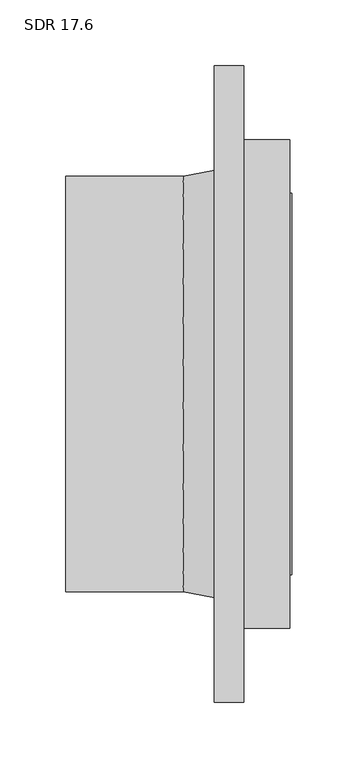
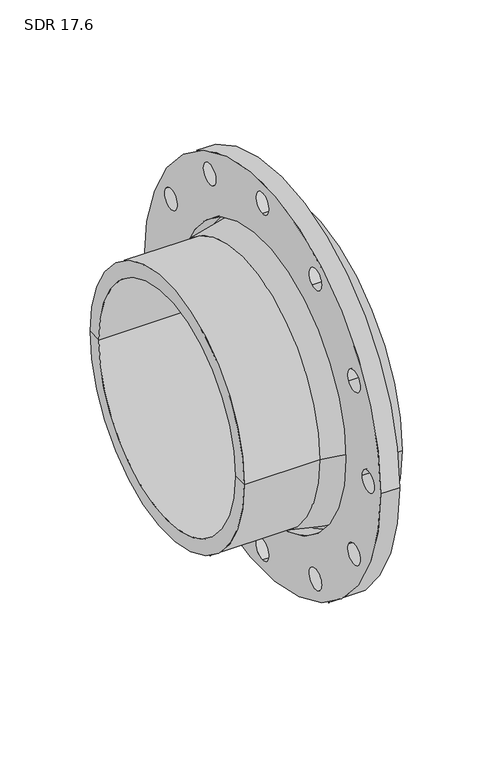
"""IFC4 building model written with IfcOpenShell, lengths in millimetres: valve geometry, Aquatherm - Flange Adapter Butt-Weld : SDR 17.6."""

from ifc_helpers import new_model, si_unit, point, frame, frame_2d, origin, origin_2d, place, context, project, spatial, polyline, circle_curve, trimmed, segment, composite_curve, outline, extrude, source, transform, mapped, element, save
from ifc_brep_helpers import plane_surface, cylinder_surface, revolved_surface, advanced_brep


def sdr_17_6_c7095c72(model_context):
    return source(origin(), model_context, "Body", "SolidModel", [
        extrude(outline(composite_curve([segment(trimmed(circle_curve(origin_2d(), 241.3), [point((-241.3, 0.0))], [point((241.3, 0.0))], False, "CARTESIAN"), True, "CONTINUOUS"), segment(trimmed(circle_curve(origin_2d(), 241.3), [point((241.3, 0.0))], [point((-241.3, 0.0))], False, "CARTESIAN"), True, "CONTINUOUS")], self_intersect=False), holes=[composite_curve([segment(trimmed(circle_curve(origin_2d(), 170.18), [point((-170.18, 0.0))], [point((170.18, 0.0))], True, "CARTESIAN"), True, "CONTINUOUS"), segment(trimmed(circle_curve(origin_2d(), 170.18), [point((170.18, 0.0))], [point((-170.18, 0.0))], True, "CARTESIAN"), True, "CONTINUOUS")], self_intersect=False), composite_curve([segment(trimmed(circle_curve(frame_2d((215.9, 0.0)), 12.7), [point((203.2, 0.0))], [point((228.6, 0.0))], True, "CARTESIAN"), True, "CONTINUOUS"), segment(trimmed(circle_curve(frame_2d((215.9, 0.0)), 12.7), [point((228.6, 0.0))], [point((203.2, 0.0))], True, "CARTESIAN"), True, "CONTINUOUS")], self_intersect=False), composite_curve([segment(trimmed(circle_curve(frame_2d((186.9748847, -107.95)), 12.7), [point((175.976362, -101.6))], [point((197.9734073, -114.3))], True, "CARTESIAN"), True, "CONTINUOUS"), segment(trimmed(circle_curve(frame_2d((186.9748847, -107.95)), 12.7), [point((197.9734073, -114.3))], [point((175.976362, -101.6))], True, "CARTESIAN"), True, "CONTINUOUS")], self_intersect=False), composite_curve([segment(trimmed(circle_curve(frame_2d((186.9748847, 107.95)), 12.7), [point((175.976362, 101.6))], [point((197.9734073, 114.3))], True, "CARTESIAN"), True, "CONTINUOUS"), segment(trimmed(circle_curve(frame_2d((186.9748847, 107.95)), 12.7), [point((197.9734073, 114.3))], [point((175.976362, 101.6))], True, "CARTESIAN"), True, "CONTINUOUS")], self_intersect=False), composite_curve([segment(trimmed(circle_curve(frame_2d((107.95, 186.9748847)), 12.7), [point((101.6, 175.976362))], [point((114.3, 197.9734073))], True, "CARTESIAN"), True, "CONTINUOUS"), segment(trimmed(circle_curve(frame_2d((107.95, 186.9748847)), 12.7), [point((114.3, 197.9734073))], [point((101.6, 175.976362))], True, "CARTESIAN"), True, "CONTINUOUS")], self_intersect=False), composite_curve([segment(trimmed(circle_curve(frame_2d((0.0, 215.9)), 12.7), [point((0.0, 203.2))], [point((0.0, 228.6))], True, "CARTESIAN"), True, "CONTINUOUS"), segment(trimmed(circle_curve(frame_2d((0.0, 215.9)), 12.7), [point((0.0, 228.6))], [point((0.0, 203.2))], True, "CARTESIAN"), True, "CONTINUOUS")], self_intersect=False), composite_curve([segment(trimmed(circle_curve(frame_2d((-107.95, 186.9748847)), 12.7), [point((-101.6, 175.976362))], [point((-114.3, 197.9734073))], True, "CARTESIAN"), True, "CONTINUOUS"), segment(trimmed(circle_curve(frame_2d((-107.95, 186.9748847)), 12.7), [point((-114.3, 197.9734073))], [point((-101.6, 175.976362))], True, "CARTESIAN"), True, "CONTINUOUS")], self_intersect=False), composite_curve([segment(trimmed(circle_curve(frame_2d((-186.9748847, 107.95)), 12.7), [point((-175.976362, 101.6))], [point((-197.9734073, 114.3))], True, "CARTESIAN"), True, "CONTINUOUS"), segment(trimmed(circle_curve(frame_2d((-186.9748847, 107.95)), 12.7), [point((-197.9734073, 114.3))], [point((-175.976362, 101.6))], True, "CARTESIAN"), True, "CONTINUOUS")], self_intersect=False), composite_curve([segment(trimmed(circle_curve(frame_2d((-215.9, 0.0)), 12.7), [point((-203.2, 0.0))], [point((-228.6, 0.0))], True, "CARTESIAN"), True, "CONTINUOUS"), segment(trimmed(circle_curve(frame_2d((-215.9, 0.0)), 12.7), [point((-228.6, 0.0))], [point((-203.2, 0.0))], True, "CARTESIAN"), True, "CONTINUOUS")], self_intersect=False), composite_curve([segment(trimmed(circle_curve(frame_2d((-186.9748847, -107.95)), 12.7), [point((-175.976362, -101.6))], [point((-197.9734073, -114.3))], True, "CARTESIAN"), True, "CONTINUOUS"), segment(trimmed(circle_curve(frame_2d((-186.9748847, -107.95)), 12.7), [point((-197.9734073, -114.3))], [point((-175.976362, -101.6))], True, "CARTESIAN"), True, "CONTINUOUS")], self_intersect=False), composite_curve([segment(trimmed(circle_curve(frame_2d((-107.95, -186.9748847)), 12.7), [point((-101.6, -175.976362))], [point((-114.3, -197.9734073))], True, "CARTESIAN"), True, "CONTINUOUS"), segment(trimmed(circle_curve(frame_2d((-107.95, -186.9748847)), 12.7), [point((-114.3, -197.9734073))], [point((-101.6, -175.976362))], True, "CARTESIAN"), True, "CONTINUOUS")], self_intersect=False), composite_curve([segment(trimmed(circle_curve(frame_2d((0.0, -215.9)), 12.7), [point((0.0, -203.2))], [point((0.0, -228.6))], True, "CARTESIAN"), True, "CONTINUOUS"), segment(trimmed(circle_curve(frame_2d((0.0, -215.9)), 12.7), [point((0.0, -228.6))], [point((0.0, -203.2))], True, "CARTESIAN"), True, "CONTINUOUS")], self_intersect=False), composite_curve([segment(trimmed(circle_curve(frame_2d((107.95, -186.9748847)), 12.7), [point((101.6, -175.976362))], [point((114.3, -197.9734073))], True, "CARTESIAN"), True, "CONTINUOUS"), segment(trimmed(circle_curve(frame_2d((107.95, -186.9748847)), 12.7), [point((114.3, -197.9734073))], [point((101.6, -175.976362))], True, "CARTESIAN"), True, "CONTINUOUS")], self_intersect=False)]), frame((-22.352, 0.0, 0.0), z_axis=(1.0, 0.0, 0.0), x_axis=(0.0, 1.0, 0.0)), (0.0, 0.0, 1.0), 22.352),
        advanced_brep(
        [(35.052, 185.42, 0.0), (35.052, -185.42, 0.0), (0.0, -185.42, 0.0), (0.0, 185.42, 0.0), (36.6395, 139.7, 0.0), (36.6395, -139.7, 0.0), (36.6395, -144.78, 0.0), (36.6395, 144.78, 0.0), (-134.874, 139.7, 0.0), (-134.874, -139.7, 0.0), (-134.874, 157.48, 0.0), (-134.874, -157.48, 0.0), (-45.974, 157.48, 0.0), (-45.974, -157.48, 0.0), (0.0, -166.37, 0.0), (0.0, 166.37, 0.0), (35.052, 144.78, 0.0), (35.052, -144.78, 0.0)],
        [
            (0, 1, circle_curve(frame((35.052, 0.0, 0.0), z_axis=(-1.0, 0.0, 0.0), x_axis=(0.0, -1.0, 0.0)), 185.42)),
            (1, 2),
            (2, 3, circle_curve(frame((0.0, 0.0, 0.0), z_axis=(1.0, 0.0, 0.0), x_axis=(0.0, -1.0, 0.0)), 185.42)),
            (3, 0),
            (1, 0, circle_curve(frame((35.052, 0.0, 0.0), z_axis=(-1.0, 0.0, 0.0), x_axis=(0.0, -1.0, 0.0)), 185.42)),
            (3, 2, circle_curve(frame((0.0, 0.0, 0.0), z_axis=(1.0, 0.0, 0.0), x_axis=(0.0, -1.0, 0.0)), 185.42)),
            (4, 5, circle_curve(frame((36.6395, 0.0, 0.0), z_axis=(-1.0, 0.0, 0.0), x_axis=(0.0, -1.0, 0.0)), 139.7)),
            (5, 6),
            (6, 7, circle_curve(frame((36.6395, 0.0, 0.0), z_axis=(1.0, 0.0, 0.0), x_axis=(0.0, -1.0, 0.0)), 144.78)),
            (7, 4),
            (5, 4, circle_curve(frame((36.6395, 0.0, 0.0), z_axis=(-1.0, 0.0, 0.0), x_axis=(0.0, -1.0, 0.0)), 139.7)),
            (7, 6, circle_curve(frame((36.6395, 0.0, 0.0), z_axis=(1.0, 0.0, 0.0), x_axis=(0.0, -1.0, 0.0)), 144.78)),
            (8, 9, circle_curve(frame((-134.874, 0.0, 0.0), z_axis=(-1.0, 0.0, 0.0), x_axis=(0.0, -1.0, 0.0)), 139.7)),
            (9, 5),
            (4, 8),
            (9, 8, circle_curve(frame((-134.874, 0.0, 0.0), z_axis=(-1.0, 0.0, 0.0), x_axis=(0.0, -1.0, 0.0)), 139.7)),
            (10, 11, circle_curve(frame((-134.874, 0.0, 0.0), z_axis=(-1.0, 0.0, 0.0), x_axis=(0.0, -1.0, 0.0)), 157.48)),
            (11, 9),
            (8, 10),
            (11, 10, circle_curve(frame((-134.874, 0.0, 0.0), z_axis=(-1.0, 0.0, 0.0), x_axis=(0.0, -1.0, 0.0)), 157.48)),
            (12, 13, circle_curve(frame((-45.974, 0.0, 0.0), z_axis=(-1.0, 0.0, 0.0), x_axis=(0.0, -1.0, 0.0)), 157.48)),
            (13, 11),
            (10, 12),
            (13, 12, circle_curve(frame((-45.974, 0.0, 0.0), z_axis=(-1.0, 0.0, 0.0), x_axis=(0.0, -1.0, 0.0)), 157.48)),
            (2, 14),
            (14, 15, circle_curve(frame((0.0, 0.0, 0.0), z_axis=(1.0, 0.0, 0.0), x_axis=(0.0, -1.0, 0.0)), 166.37)),
            (15, 3),
            (15, 14, circle_curve(frame((0.0, 0.0, 0.0), z_axis=(1.0, 0.0, 0.0), x_axis=(0.0, -1.0, 0.0)), 166.37)),
            (16, 17, circle_curve(frame((35.052, 0.0, 0.0), z_axis=(-1.0, 0.0, 0.0), x_axis=(0.0, -1.0, 0.0)), 144.78)),
            (17, 1),
            (0, 16),
            (17, 16, circle_curve(frame((35.052, 0.0, 0.0), z_axis=(-1.0, 0.0, 0.0), x_axis=(0.0, -1.0, 0.0)), 144.78)),
            (6, 17),
            (16, 7),
            (14, 13),
            (12, 15),
        ],
        [
            cylinder_surface(frame((1475.6909321, 0.0, 0.0), z_axis=(1.0, 0.0, 0.0), x_axis=(0.0, -1.0, 0.0)), 185.42),
            plane_surface(frame((36.6395, 0.0, 0.0), z_axis=(1.0, 0.0, 0.0), x_axis=(0.0, -1.0, 0.0))),
            revolved_surface(polyline([(36.6395, -139.7, 0.0), (-134.87400000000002, -139.7, 0.0)]), (1475.6909321, 0.0, 0.0), (1.0, 0.0, 0.0)),
            plane_surface(frame((-134.874, 0.0, 0.0), z_axis=(-1.0, 0.0, 0.0), x_axis=(0.0, -1.0, 0.0))),
            cylinder_surface(frame((1475.6909321, 0.0, 0.0), z_axis=(1.0, 0.0, 0.0), x_axis=(0.0, -1.0, 0.0)), 157.48),
            plane_surface(frame((0.0, 0.0, 0.0), z_axis=(-1.0, 0.0, 0.0), x_axis=(0.0, -1.0, 0.0))),
            plane_surface(frame((35.052, 0.0, 0.0), z_axis=(1.0, 0.0, 0.0), x_axis=(0.0, -1.0, 0.0))),
            cylinder_surface(frame((1475.6909321, 0.0, 0.0), z_axis=(1.0, 0.0, 0.0), x_axis=(0.0, -1.0, 0.0)), 144.78),
            revolved_surface(polyline([(-45.974, -157.48, 0.0), (0.0, -166.37, 0.0)]), (1475.6909321, 0.0, 0.0), (1.0, 0.0, 0.0)),
        ],
        [
            (0, [[1, 2, 3, 4]]),
            (0, [[5, -4, 6, -2]]),
            (1, [[7, 8, 9, 10]]),
            (1, [[11, -10, 12, -8]]),
            (2, [[13, 14, -7, 15]]),
            (2, [[16, -15, -11, -14]]),
            (3, [[17, 18, -13, 19]]),
            (3, [[20, -19, -16, -18]]),
            (4, [[21, 22, -17, 23]]),
            (4, [[24, -23, -20, -22]]),
            (5, [[-3, 25, 26, 27]]),
            (5, [[-6, -27, 28, -25]]),
            (6, [[29, 30, -1, 31]]),
            (6, [[32, -31, -5, -30]]),
            (7, [[-9, 33, -29, 34]]),
            (7, [[-12, -34, -32, -33]]),
            (8, [[-26, 35, -21, 36]]),
            (8, [[-28, -36, -24, -35]]),
        ],
    ),
    ])


if __name__ == "__main__":
    model = new_model("IFC4")
    model_context = context("Model", 3, world=origin())
    ifc_project = project(units=[si_unit("LENGTHUNIT", "METRE", prefix="MILLI")], contexts=[model_context])
    site = spatial("IfcSite", under=ifc_project)
    building = spatial("IfcBuilding", under=site)
    placement = place(None, origin())
    sdr_17_6_shape = sdr_17_6_c7095c72(model_context)
    element("IfcValve", 1, ObjectType="Aquatherm - Flange Adapter Butt-Weld : SDR 17.6", at=placement, inside=building, context=model_context, shape_type="MappedRepresentation", body=[
        mapped(sdr_17_6_shape, transform((0.0, 0.0, 0.0), x_axis=(1.0, 0.0, 0.0), y_axis=(0.0, 1.0, 0.0), z_axis=(0.0, 0.0, 1.0))),
    ])
    save(model, "model.ifc")
